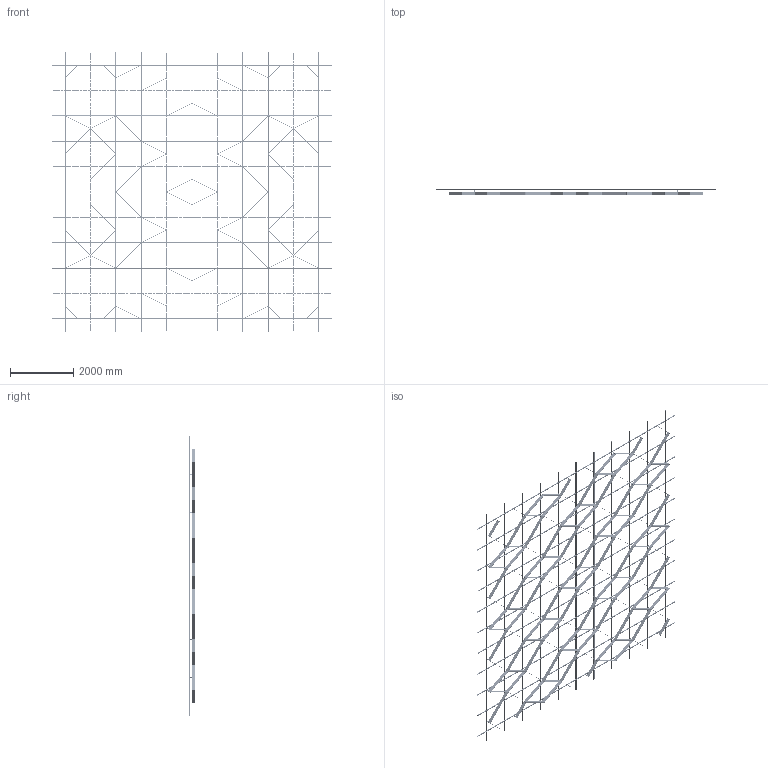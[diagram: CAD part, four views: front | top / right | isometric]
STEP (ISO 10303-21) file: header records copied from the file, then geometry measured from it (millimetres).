
FILE_DESCRIPTION (( 'STEP AP203' ), '1' );
FILE_NAME ('14 ìèäè ñ ïñ.step', '2025-11-26T11:37:00', ( '' ), ( '' ), 'SwSTEP 2.0', 'SolidWorks 2020', '' );
FILE_SCHEMA (( 'CONFIG_CONTROL_DESIGN' ));
Length unit declared in the file: millimetre
Products named in the file (5): Var14; SS.SEMA.2400 - Ñèìà-ïðîôèëü; 14 ìèäè ñ ïñ; Ñèñòåìà â çîíå 8000õ8000; SS.SEMA.2400 - Ñèìà-ïðîôèëü — îáðåçàí 1600
Assembly tree (90 placements, depth 3):
  14 ìèäè ñ ïñ
    Ñèñòåìà â çîíå 8000õ8000
      SS.SEMA.2400 - Ñèìà-ïðîôèëü  x66
      SS.SEMA.2400 - Ñèìà-ïðîôèëü — îáðåçàí 1600  x22
    Var14
Bounding box: 8800 x 205 x 8800 mm (x, y, z)
Volume: 125138015.2 mm3; surface area: 57005897 mm2
Topology: 580 solids, 580 shells, 18748 faces, 51356 edges, 33768 vertices
Faces by surface type: cylinder 12562, plane 6186
Entity records: 66903 total; most frequent: CARTESIAN_POINT 15266, DIRECTION 9666, ORIENTED_EDGE 9560, EDGE_CURVE 4780, AXIS2_PLACEMENT_3D 4584, VERTEX_POINT 3176, EDGE_LOOP 2754, FACE_OUTER_BOUND 2592
